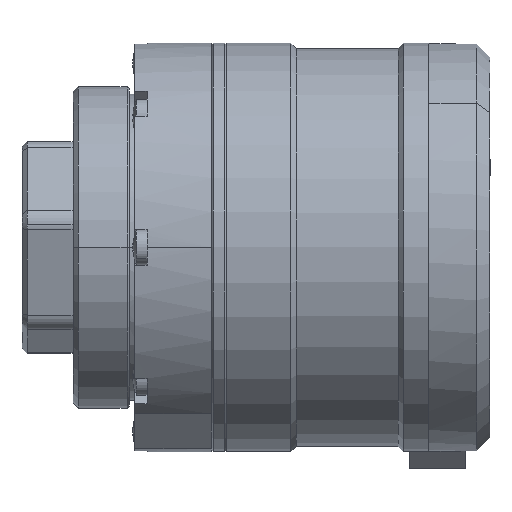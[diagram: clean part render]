
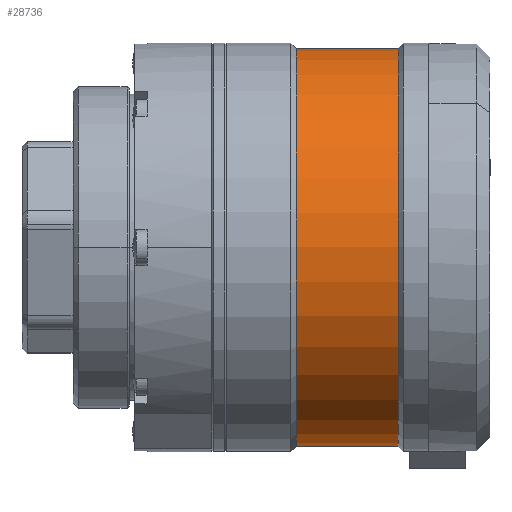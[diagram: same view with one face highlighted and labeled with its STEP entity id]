
A CAD part, front view. The second image highlights one B-rep face of the part: STEP entity #28736.
In plain terms, the highlighted cylindrical face has radius 19.5 mm (diameter 39 mm), a partial arc.
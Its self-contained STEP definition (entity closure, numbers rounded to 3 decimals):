
#81 = CARTESIAN_POINT ( 'NONE',  ( -19.5, 0., 6. ) ) ;
#273 = EDGE_CURVE ( 'NONE', #1250, #15542, #31036, .T. ) ;
#420 = DIRECTION ( 'NONE',  ( 0., 0., 1. ) ) ;
#1250 = VERTEX_POINT ( 'NONE', #1918 ) ;
#1918 = CARTESIAN_POINT ( 'NONE',  ( 19.5, 0., -4. ) ) ;
#3537 = VERTEX_POINT ( 'NONE', #33353 ) ;
#3576 = DIRECTION ( 'NONE',  ( 0., 0., 1. ) ) ;
#6693 = CARTESIAN_POINT ( 'NONE',  ( -19.5, 0., -4. ) ) ;
#6886 = LINE ( 'NONE', #15781, #36225 ) ;
#7535 = ORIENTED_EDGE ( 'NONE', *, *, #26111, .T. ) ;
#7789 = CIRCLE ( 'NONE', #21096, 19.5 ) ;
#9343 = CARTESIAN_POINT ( 'NONE',  ( 0., 0., -4. ) ) ;
#10516 = DIRECTION ( 'NONE',  ( 0., 0., 1. ) ) ;
#10797 = DIRECTION ( 'NONE',  ( 1., 0., 0. ) ) ;
#12008 = DIRECTION ( 'NONE',  ( 1., 0., 0. ) ) ;
#12895 = ORIENTED_EDGE ( 'NONE', *, *, #273, .T. ) ;
#13755 = VERTEX_POINT ( 'NONE', #81 ) ;
#14745 = DIRECTION ( 'NONE',  ( 0., 0., 1. ) ) ;
#15542 = VERTEX_POINT ( 'NONE', #6693 ) ;
#15781 = CARTESIAN_POINT ( 'NONE',  ( 19.5, 0., 0. ) ) ;
#17465 = CARTESIAN_POINT ( 'NONE',  ( 0., 0., 6. ) ) ;
#20294 = DIRECTION ( 'NONE',  ( 1., 0., 0. ) ) ;
#20581 = CARTESIAN_POINT ( 'NONE',  ( 0., 0., 0. ) ) ;
#20678 = AXIS2_PLACEMENT_3D ( 'NONE', #9343, #10516, #10797 ) ;
#21096 = AXIS2_PLACEMENT_3D ( 'NONE', #17465, #420, #20294 ) ;
#21712 = EDGE_CURVE ( 'NONE', #3537, #13755, #7789, .T. ) ;
#23610 = ORIENTED_EDGE ( 'NONE', *, *, #35681, .F. ) ;
#26111 = EDGE_CURVE ( 'NONE', #15542, #13755, #28927, .T. ) ;
#27488 = CYLINDRICAL_SURFACE ( 'NONE', #33165, 19.5 ) ;
#28736 = ADVANCED_FACE ( 'NONE', ( #35855 ), #27488, .T. ) ;
#28927 = LINE ( 'NONE', #31874, #35532 ) ;
#31036 = CIRCLE ( 'NONE', #20678, 19.5 ) ;
#31874 = CARTESIAN_POINT ( 'NONE',  ( -19.5, 0., 0. ) ) ;
#33165 = AXIS2_PLACEMENT_3D ( 'NONE', #20581, #3576, #12008 ) ;
#33353 = CARTESIAN_POINT ( 'NONE',  ( 19.5, 0., 6. ) ) ;
#33715 = EDGE_LOOP ( 'NONE', ( #12895, #7535, #34772, #23610 ) ) ;
#34772 = ORIENTED_EDGE ( 'NONE', *, *, #21712, .F. ) ;
#35532 = VECTOR ( 'NONE', #14745, 1000. ) ;
#35681 = EDGE_CURVE ( 'NONE', #1250, #3537, #6886, .T. ) ;
#35772 = DIRECTION ( 'NONE',  ( 0., 0., 1. ) ) ;
#35855 = FACE_OUTER_BOUND ( 'NONE', #33715, .T. ) ;
#36225 = VECTOR ( 'NONE', #35772, 1000. ) ;
